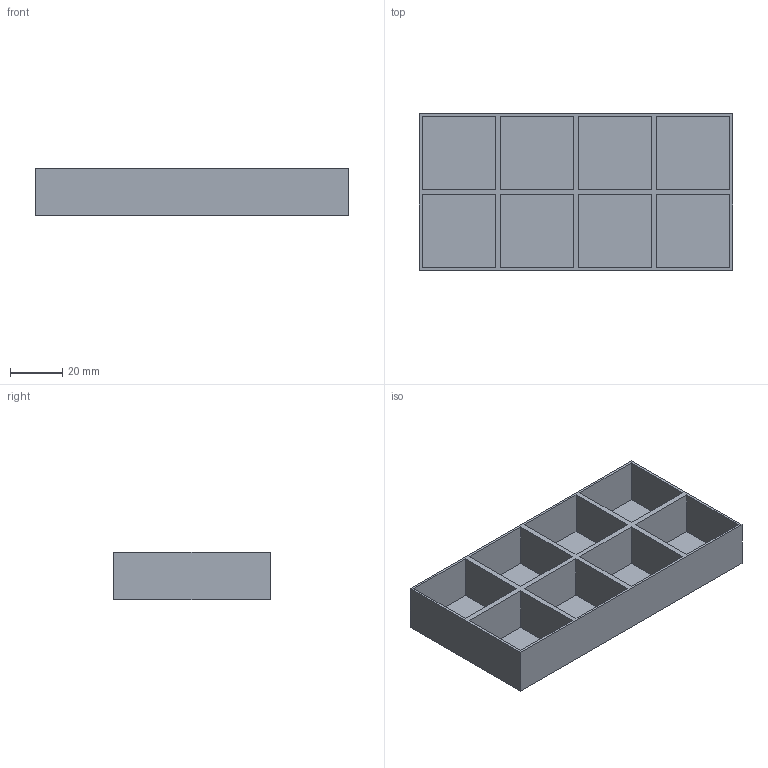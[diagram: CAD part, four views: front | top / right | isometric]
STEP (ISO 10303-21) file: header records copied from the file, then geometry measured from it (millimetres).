
FILE_DESCRIPTION (( 'STEP AP214' ), '1' );
FILE_NAME ('Base_fond_02 - LARGE.STEP', '2025-08-13T18:29:53', ( '' ), ( '' ), 'SwSTEP 2.0', 'SolidWorks 2024', '' );
FILE_SCHEMA (( 'AUTOMOTIVE_DESIGN' ));
Length unit declared in the file: millimetre
Products named in the file (1): Base_fond_02 - LARGE
Bounding box: 120 x 60 x 18.17 mm (x, y, z)
Volume: 23130.7 mm3; surface area: 36321.3 mm2
Topology: 1 solids, 1 shells, 46 faces, 108 edges, 72 vertices
Faces by surface type: plane 46
Entity records: 1315 total; most frequent: CARTESIAN_POINT 227, ORIENTED_EDGE 216, DIRECTION 202, EDGE_CURVE 108, LINE 108, VECTOR 108, VERTEX_POINT 72, EDGE_LOOP 54
